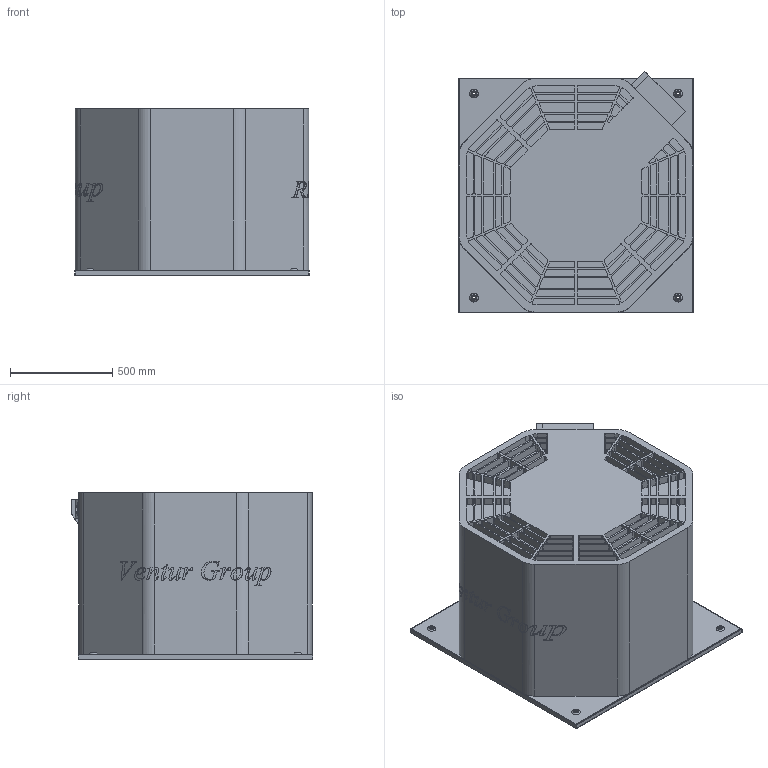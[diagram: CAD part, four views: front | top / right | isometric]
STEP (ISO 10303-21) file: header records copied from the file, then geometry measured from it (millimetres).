
FILE_DESCRIPTION(/* description */ (''),/* implementation_level */ '2;1');
FILE_NAME(/* name */ 'E:\Mariusz\Modele uproszczone\RFHT\RFHT_x_560 423534080\RFHT_x_560 423534080\RFHT_x_560 423534080.stp',/* time_stamp */ '2018-06-15T15:14:14+02:00',/* author */ ('M.Janczarek'),/* organization */ (''),/* preprocessor_version */ 'ST-DEVELOPER v16.5',/* originating_system */ 'Autodesk Inventor 2017',/* authorisation */ '');
FILE_SCHEMA (('AUTOMOTIVE_DESIGN { 1 0 10303 214 3 1 1 }'));
Products named in the file (1): RFHT_x_560 423534080
Bounding box: 1150 x 1183.82 x 815 mm (x, y, z)
Volume: 845323192.5 mm3; surface area: 7111097.1 mm2
Topology: 1 solids, 1 shells, 1536 faces, 4152 edges, 2745 vertices
Faces by surface type: plane 748, cylinder 445, bspline 286, cone 32, torus 25
Full cylindrical faces by diameter (mm): 6.186 x1, 9.427 x1, 12.4 x4, 22.3 x1, 22.6 x2, 25 x1, 27 x2, 52 x1, 55 x1, 56.5 x1, 60 x1, 460 x1
Entity records: 51101 total; most frequent: CARTESIAN_POINT 13467, ORIENTED_EDGE 8202, DIRECTION 6923, EDGE_CURVE 4101, VERTEX_POINT 2744, LINE 2471, VECTOR 2471, AXIS2_PLACEMENT_3D 2226
